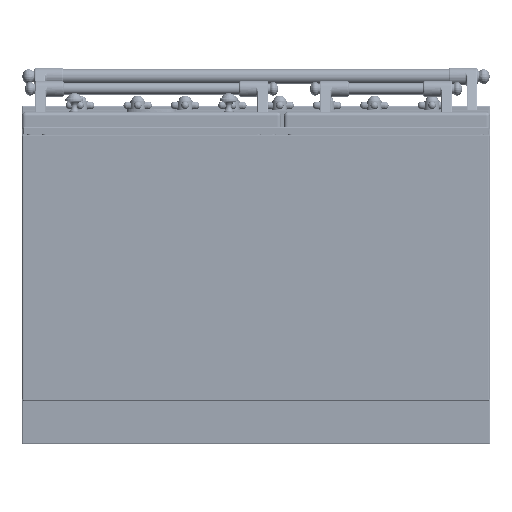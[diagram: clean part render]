
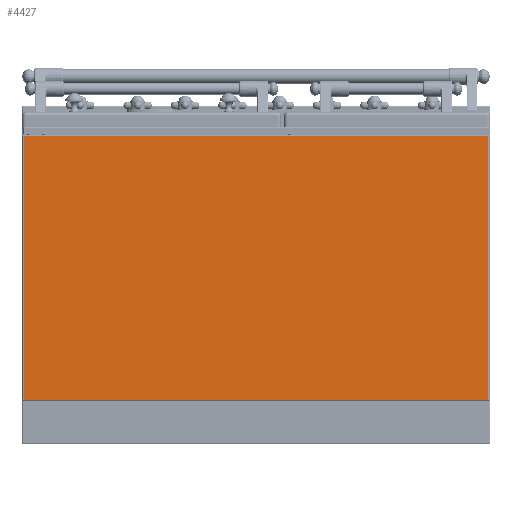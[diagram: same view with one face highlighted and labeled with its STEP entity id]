
A CAD part, front view. The second image highlights one B-rep face of the part: STEP entity #4427.
In plain terms, the highlighted planar face has unit normal (0, -1, 0).
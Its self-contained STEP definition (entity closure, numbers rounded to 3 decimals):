
#4070=DIRECTION('',(0.,0.,-1.));
#4071=VECTOR('',#4070,508.);
#4072=CARTESIAN_POINT('',(447.,0.,254.));
#4073=LINE('',#4072,#4071);
#4074=DIRECTION('',(-1.,0.,0.));
#4075=VECTOR('',#4074,894.);
#4076=CARTESIAN_POINT('',(447.,0.,-254.));
#4077=LINE('',#4076,#4075);
#4078=DIRECTION('',(0.,0.,1.));
#4079=VECTOR('',#4078,508.);
#4080=CARTESIAN_POINT('',(-447.,0.,-254.));
#4081=LINE('',#4080,#4079);
#4082=DIRECTION('',(-1.,0.,0.));
#4083=VECTOR('',#4082,894.);
#4084=CARTESIAN_POINT('',(447.,0.,254.));
#4085=LINE('',#4084,#4083);
#4222=CARTESIAN_POINT('',(447.,0.,254.));
#4223=CARTESIAN_POINT('',(447.,0.,-254.));
#4224=VERTEX_POINT('',#4222);
#4225=VERTEX_POINT('',#4223);
#4228=CARTESIAN_POINT('',(-447.,0.,254.));
#4229=VERTEX_POINT('',#4228);
#4236=CARTESIAN_POINT('',(-447.,0.,-254.));
#4237=VERTEX_POINT('',#4236);
#4413=CARTESIAN_POINT('',(-449.,0.,256.));
#4414=DIRECTION('',(0.,-1.,0.));
#4415=DIRECTION('',(0.,0.,-1.));
#4416=AXIS2_PLACEMENT_3D('',#4413,#4414,#4415);
#4417=PLANE('',#4416);
#4418=ORIENTED_EDGE('',*,*,#4403,.T.);
#4420=ORIENTED_EDGE('',*,*,#4419,.T.);
#4422=ORIENTED_EDGE('',*,*,#4421,.T.);
#4424=ORIENTED_EDGE('',*,*,#4423,.F.);
#4425=EDGE_LOOP('',(#4418,#4420,#4422,#4424));
#4426=FACE_OUTER_BOUND('',#4425,.F.);
#4403=EDGE_CURVE('',#4224,#4225,#4073,.T.);
#4419=EDGE_CURVE('',#4225,#4237,#4077,.T.);
#4421=EDGE_CURVE('',#4237,#4229,#4081,.T.);
#4423=EDGE_CURVE('',#4224,#4229,#4085,.T.);
#4427=ADVANCED_FACE('',(#4426),#4417,.T.);
